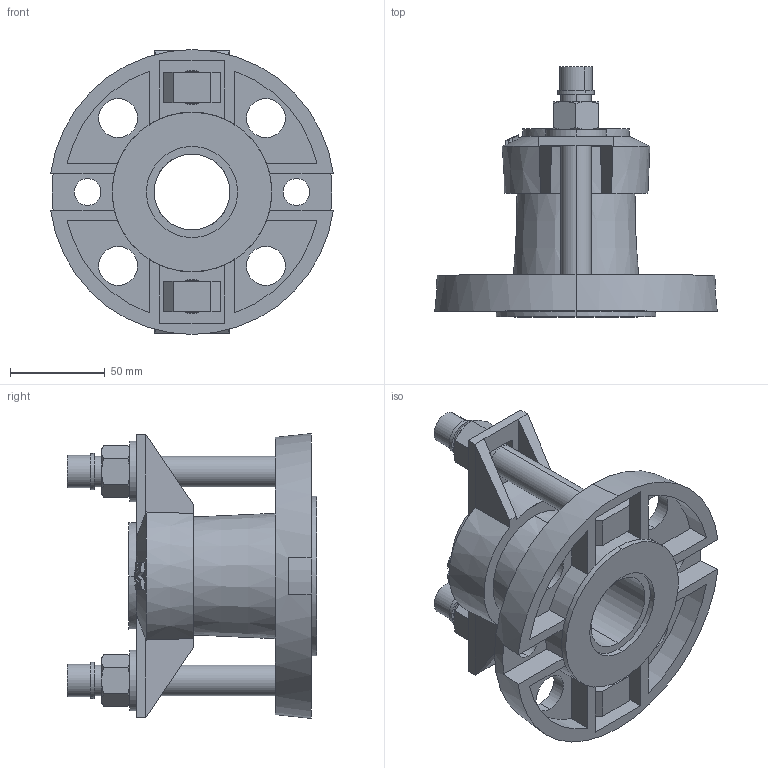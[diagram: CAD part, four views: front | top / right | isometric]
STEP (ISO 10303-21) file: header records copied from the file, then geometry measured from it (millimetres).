
FILE_DESCRIPTION (( 'STEP AP203' ), '1' );
FILE_NAME ('O_623_10_DN040-40mm_X1XXXXX_REV01.step', '2020-04-17T08:15:58', ( '' ), ( '' ), 'SwSTEP 2.0', 'SolidWorks 2019', '' );
FILE_SCHEMA (( 'CONFIG_CONTROL_DESIGN' ));
Length unit declared in the file: millimetre
Products named in the file (1): O_623_10_DN040-40mm_X1XXXXX_REV01
Bounding box: 148.79 x 131.5 x 150 mm (x, y, z)
Volume: 484009.4 mm3; surface area: 110380.1 mm2
Topology: 1 solids, 1 shells, 269 faces, 680 edges, 426 vertices
Faces by surface type: plane 143, cylinder 81, cone 43, bspline 2
Entity records: 8489 total; most frequent: CARTESIAN_POINT 2024, ORIENTED_EDGE 1360, DIRECTION 1288, EDGE_CURVE 680, AXIS2_PLACEMENT_3D 490, VERTEX_POINT 426, LINE 308, EDGE_LOOP 308
